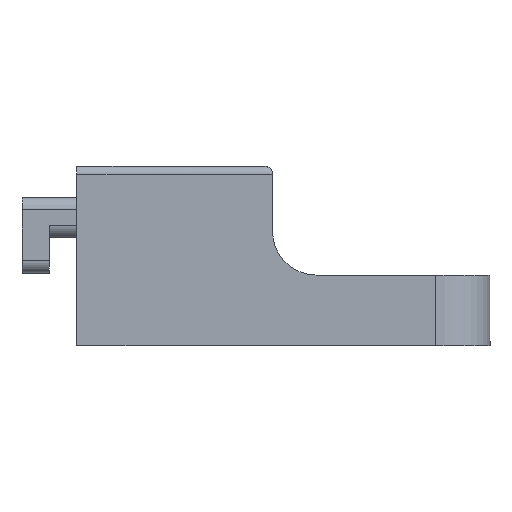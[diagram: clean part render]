
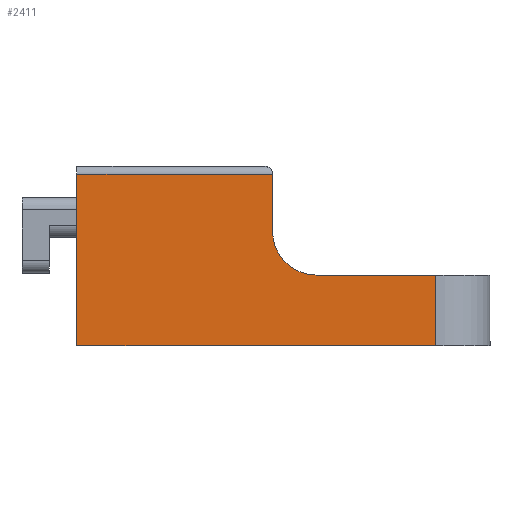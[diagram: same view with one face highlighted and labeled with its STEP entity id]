
A CAD part, left-side view. The second image highlights one B-rep face of the part: STEP entity #2411.
In plain terms, the highlighted planar face has unit normal (-1, 0, 0).
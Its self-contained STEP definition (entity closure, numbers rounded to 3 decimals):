
#92=PLANE('',#2624);
#201=FACE_OUTER_BOUND('',#367,.T.);
#367=EDGE_LOOP('',(#1832,#1833,#1834,#1835,#1836,#1837,#1838));
#578=LINE('',#3788,#805);
#584=LINE('',#3807,#811);
#608=LINE('',#3860,#835);
#611=LINE('',#3869,#838);
#612=LINE('',#3871,#839);
#613=LINE('',#3872,#840);
#805=VECTOR('',#3003,10.);
#811=VECTOR('',#3021,10.);
#835=VECTOR('',#3055,10.);
#838=VECTOR('',#3064,10.);
#839=VECTOR('',#3065,10.);
#840=VECTOR('',#3066,10.);
#1009=CIRCLE('',#2615,8.);
#1148=VERTEX_POINT('',#3785);
#1149=VERTEX_POINT('',#3787);
#1154=VERTEX_POINT('',#3799);
#1156=VERTEX_POINT('',#3805);
#1180=VERTEX_POINT('',#3858);
#1183=VERTEX_POINT('',#3868);
#1184=VERTEX_POINT('',#3870);
#1386=EDGE_CURVE('',#1148,#1149,#578,.T.);
#1393=EDGE_CURVE('',#1154,#1148,#1009,.T.);
#1396=EDGE_CURVE('',#1156,#1154,#584,.T.);
#1423=EDGE_CURVE('',#1180,#1156,#608,.T.);
#1427=EDGE_CURVE('',#1180,#1183,#611,.T.);
#1428=EDGE_CURVE('',#1184,#1183,#612,.T.);
#1429=EDGE_CURVE('',#1149,#1184,#613,.T.);
#1832=ORIENTED_EDGE('',*,*,#1423,.F.);
#1833=ORIENTED_EDGE('',*,*,#1427,.T.);
#1834=ORIENTED_EDGE('',*,*,#1428,.F.);
#1835=ORIENTED_EDGE('',*,*,#1429,.F.);
#1836=ORIENTED_EDGE('',*,*,#1386,.F.);
#1837=ORIENTED_EDGE('',*,*,#1393,.F.);
#1838=ORIENTED_EDGE('',*,*,#1396,.F.);
#2411=ADVANCED_FACE('',(#201),#92,.T.);
#2615=AXIS2_PLACEMENT_3D('',#3801,#3015,#3016);
#2624=AXIS2_PLACEMENT_3D('',#3867,#3062,#3063);
#3003=DIRECTION('',(0.,-1.,0.));
#3015=DIRECTION('center_axis',(-1.,0.,0.));
#3016=DIRECTION('ref_axis',(0.,0.707,-0.707));
#3021=DIRECTION('',(0.,0.,-1.));
#3055=DIRECTION('',(0.,-1.,0.));
#3062=DIRECTION('center_axis',(-1.,0.,0.));
#3063=DIRECTION('ref_axis',(0.,1.,0.));
#3064=DIRECTION('',(0.,0.,-1.));
#3065=DIRECTION('',(0.,1.,0.));
#3066=DIRECTION('',(0.,0.,-1.));
#3785=CARTESIAN_POINT('',(0.,-19.,-20.));
#3787=CARTESIAN_POINT('',(0.,-41.,-20.));
#3788=CARTESIAN_POINT('',(0.,-41.,-20.));
#3799=CARTESIAN_POINT('',(0.,-11.,-12.));
#3801=CARTESIAN_POINT('Origin',(0.,-19.,-12.));
#3805=CARTESIAN_POINT('',(0.,-11.,-1.5));
#3807=CARTESIAN_POINT('',(0.,-11.,0.));
#3858=CARTESIAN_POINT('',(0.,25.,-1.5));
#3860=CARTESIAN_POINT('',(0.,-2.,-1.5));
#3867=CARTESIAN_POINT('Origin',(0.,-11.,0.));
#3868=CARTESIAN_POINT('',(0.,25.,-33.));
#3869=CARTESIAN_POINT('',(0.,25.,0.));
#3870=CARTESIAN_POINT('',(0.,-41.,-33.));
#3871=CARTESIAN_POINT('',(0.,-11.,-33.));
#3872=CARTESIAN_POINT('',(0.,-41.,-30.));
